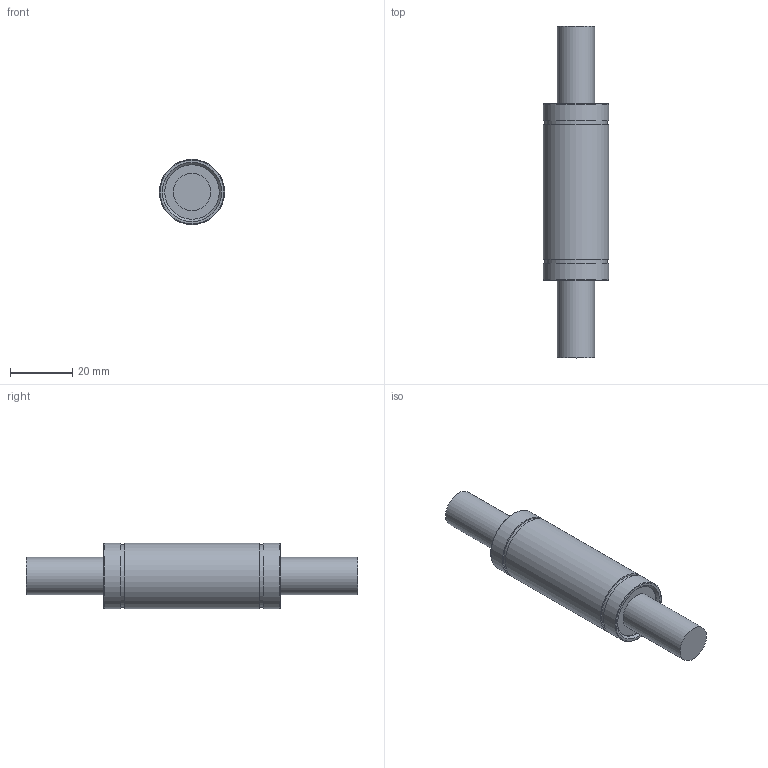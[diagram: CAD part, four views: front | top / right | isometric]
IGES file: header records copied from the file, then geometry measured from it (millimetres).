
Global section: file name: No Iges File Name specified; native system: Autodesk Inventor 2012; preprocessor: AutoDesk Inventor Iges Exporter R2012; author: user2; date: 20130206.102019; units: millimetre
Bounding box: 21 x 107 x 21 mm (x, y, z)
Volume: 25024.4 mm3; surface area: 6589.4 mm2
Topology: 1 solids, 1 shells, 23 faces, 37 edges, 24 vertices
Faces by surface type: plane 10, cylinder 7, revolution 4, torus 2
Full cylindrical faces by diameter (mm): 12 x2, 20 x2, 21 x3
